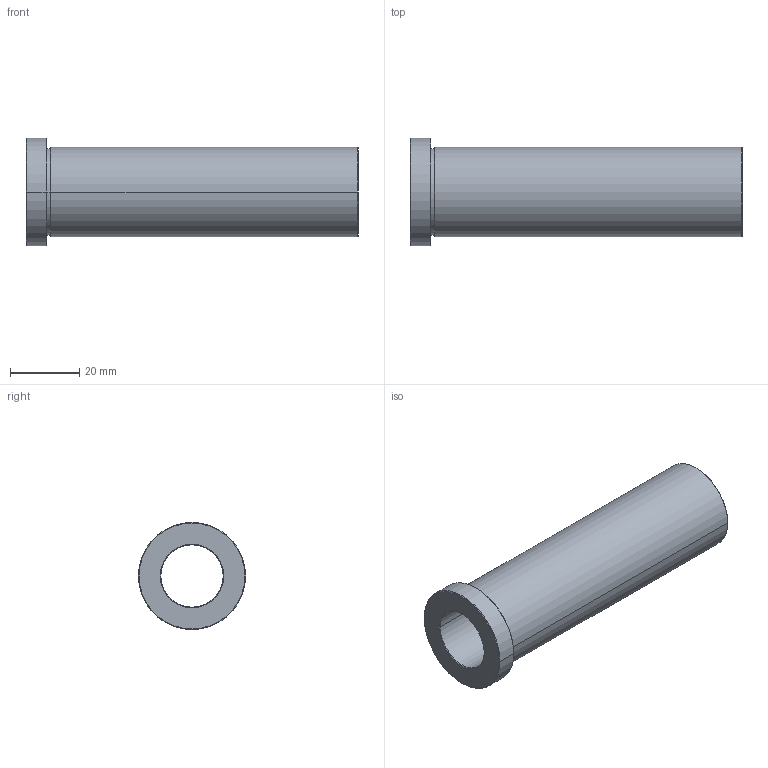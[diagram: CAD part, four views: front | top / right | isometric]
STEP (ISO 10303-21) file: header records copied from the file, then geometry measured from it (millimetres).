
FILE_DESCRIPTION (( 'STEP AP214' ), '1' );
FILE_NAME ('R03_096x18.STEP', '2015-03-05T14:48:14', ( 'TGL' ), ( '' ), 'SwSTEP 2.0', 'SolidWorks 2011', '' );
FILE_SCHEMA (( 'AUTOMOTIVE_DESIGN' ));
Length unit declared in the file: millimetre
Products named in the file (1): R03_096x18
Bounding box: 96 x 31 x 31 mm (x, y, z)
Volume: 27749.5 mm3; surface area: 14333.7 mm2
Topology: 1 solids, 1 shells, 24 faces, 48 edges, 28 vertices
Faces by surface type: cone 10, cylinder 8, plane 4, torus 2
Entity records: 730 total; most frequent: DIRECTION 128, CARTESIAN_POINT 101, ORIENTED_EDGE 96, AXIS2_PLACEMENT_3D 55, EDGE_CURVE 48, CIRCLE 30, EDGE_LOOP 28, VERTEX_POINT 28
